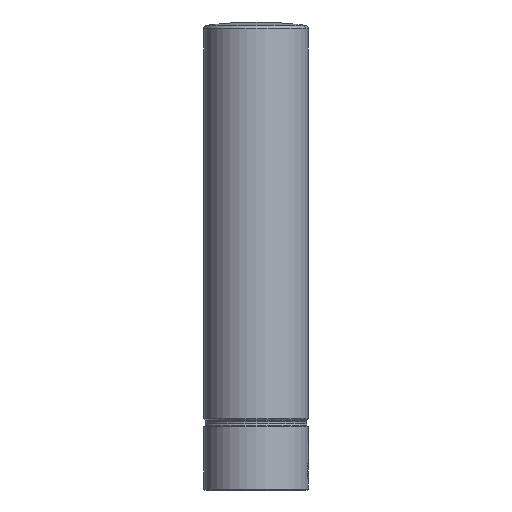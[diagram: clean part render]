
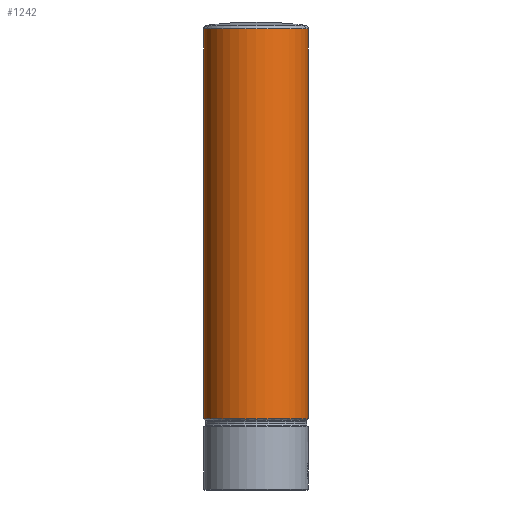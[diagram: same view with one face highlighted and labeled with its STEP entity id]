
A CAD part, left-side view. The second image highlights one B-rep face of the part: STEP entity #1242.
In plain terms, the highlighted cylindrical face has radius 14 mm (diameter 28 mm), a partial arc.
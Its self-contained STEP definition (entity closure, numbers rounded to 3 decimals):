
#403=DIRECTION('',(-1.,0.,0.));
#404=VECTOR('',#403,104.143);
#405=CARTESIAN_POINT('',(123.143,3.5,13.555));
#406=LINE('',#405,#404);
#407=DIRECTION('',(-1.,0.,0.));
#408=VECTOR('',#407,104.143);
#409=CARTESIAN_POINT('',(123.143,-3.5,13.555));
#410=LINE('',#409,#408);
#443=CARTESIAN_POINT('',(30.,7.211,12.));
#444=CARTESIAN_POINT('',(29.843,7.211,12.));
#445=CARTESIAN_POINT('',(29.535,7.251,11.976));
#446=CARTESIAN_POINT('',(29.082,7.428,11.868));
#447=CARTESIAN_POINT('',(28.679,7.684,11.704));
#448=CARTESIAN_POINT('',(28.317,7.995,11.495));
#449=CARTESIAN_POINT('',(27.994,8.346,11.243));
#450=CARTESIAN_POINT('',(27.721,8.711,10.963));
#451=CARTESIAN_POINT('',(27.494,9.077,10.662));
#452=CARTESIAN_POINT('',(27.308,9.441,10.342));
#453=CARTESIAN_POINT('',(27.158,9.815,9.988));
#454=CARTESIAN_POINT('',(27.046,10.211,9.584));
#455=CARTESIAN_POINT('',(26.987,10.635,9.113));
#456=CARTESIAN_POINT('',(27.013,11.097,8.548));
#457=CARTESIAN_POINT('',(27.175,11.554,7.918));
#458=CARTESIAN_POINT('',(27.494,11.953,7.3));
#459=CARTESIAN_POINT('',(27.968,12.269,6.752));
#460=CARTESIAN_POINT('',(28.59,12.497,6.314));
#461=CARTESIAN_POINT('',(29.319,12.627,6.048));
#462=CARTESIAN_POINT('',(29.772,12.649,6.));
#463=CARTESIAN_POINT('',(30.,12.649,6.));
#465=CARTESIAN_POINT('',(30.,12.649,6.));
#466=CARTESIAN_POINT('',(30.259,12.649,6.));
#467=CARTESIAN_POINT('',(30.753,12.619,6.065));
#468=CARTESIAN_POINT('',(31.443,12.486,6.337));
#469=CARTESIAN_POINT('',(32.026,12.269,6.751));
#470=CARTESIAN_POINT('',(32.501,11.96,7.288));
#471=CARTESIAN_POINT('',(32.856,11.519,7.974));
#472=CARTESIAN_POINT('',(33.025,10.937,8.76));
#473=CARTESIAN_POINT('',(32.985,10.265,9.539));
#474=CARTESIAN_POINT('',(32.754,9.542,10.259));
#475=CARTESIAN_POINT('',(32.406,8.886,10.828));
#476=CARTESIAN_POINT('',(31.996,8.322,11.264));
#477=CARTESIAN_POINT('',(31.54,7.852,11.594));
#478=CARTESIAN_POINT('',(31.045,7.489,11.83));
#479=CARTESIAN_POINT('',(30.506,7.256,11.973));
#480=CARTESIAN_POINT('',(30.168,7.211,12.));
#481=CARTESIAN_POINT('',(30.,7.211,12.));
#483=CARTESIAN_POINT('',(95.,7.211,12.));
#484=CARTESIAN_POINT('',(94.854,7.211,12.));
#485=CARTESIAN_POINT('',(94.572,7.246,11.979));
#486=CARTESIAN_POINT('',(94.169,7.389,11.892));
#487=CARTESIAN_POINT('',(93.812,7.594,11.762));
#488=CARTESIAN_POINT('',(93.502,7.831,11.606));
#489=CARTESIAN_POINT('',(93.227,8.091,11.427));
#490=CARTESIAN_POINT('',(92.97,8.379,11.218));
#491=CARTESIAN_POINT('',(92.729,8.701,10.971));
#492=CARTESIAN_POINT('',(92.509,9.05,10.685));
#493=CARTESIAN_POINT('',(92.321,9.412,10.368));
#494=CARTESIAN_POINT('',(92.165,9.793,10.01));
#495=CARTESIAN_POINT('',(92.048,10.201,9.595));
#496=CARTESIAN_POINT('',(91.987,10.636,9.112));
#497=CARTESIAN_POINT('',(92.014,11.104,8.538));
#498=CARTESIAN_POINT('',(92.179,11.563,7.906));
#499=CARTESIAN_POINT('',(92.502,11.959,7.289));
#500=CARTESIAN_POINT('',(92.976,12.272,6.745));
#501=CARTESIAN_POINT('',(93.595,12.498,6.312));
#502=CARTESIAN_POINT('',(94.319,12.627,6.048));
#503=CARTESIAN_POINT('',(94.773,12.649,6.));
#504=CARTESIAN_POINT('',(95.,12.649,6.));
#506=CARTESIAN_POINT('',(95.,12.649,6.));
#507=CARTESIAN_POINT('',(95.246,12.649,6.));
#508=CARTESIAN_POINT('',(95.729,12.623,6.056));
#509=CARTESIAN_POINT('',(96.488,12.478,6.353));
#510=CARTESIAN_POINT('',(97.115,12.228,6.827));
#511=CARTESIAN_POINT('',(97.58,11.885,7.412));
#512=CARTESIAN_POINT('',(97.879,11.453,8.066));
#513=CARTESIAN_POINT('',(98.007,10.968,8.713));
#514=CARTESIAN_POINT('',(98.002,10.497,9.272));
#515=CARTESIAN_POINT('',(97.918,10.06,9.742));
#516=CARTESIAN_POINT('',(97.782,9.65,10.148));
#517=CARTESIAN_POINT('',(97.606,9.261,10.503));
#518=CARTESIAN_POINT('',(97.389,8.879,10.828));
#519=CARTESIAN_POINT('',(97.14,8.518,11.113));
#520=CARTESIAN_POINT('',(96.873,8.196,11.352));
#521=CARTESIAN_POINT('',(96.585,7.906,11.555));
#522=CARTESIAN_POINT('',(96.259,7.642,11.732));
#523=CARTESIAN_POINT('',(95.886,7.414,11.877));
#524=CARTESIAN_POINT('',(95.456,7.251,11.976));
#525=CARTESIAN_POINT('',(95.156,7.211,12.));
#526=CARTESIAN_POINT('',(95.,7.211,12.));
#578=CARTESIAN_POINT('',(123.143,0.,0.));
#579=DIRECTION('',(-1.,0.,0.));
#580=DIRECTION('',(0.,0.25,0.968));
#581=AXIS2_PLACEMENT_3D('',#578,#579,#580);
#611=CARTESIAN_POINT('',(19.,0.,0.));
#612=DIRECTION('',(1.,0.,0.));
#613=DIRECTION('',(0.,-0.25,0.968));
#614=AXIS2_PLACEMENT_3D('',#611,#612,#613);
#989=CARTESIAN_POINT('',(123.143,3.5,13.555));
#990=CARTESIAN_POINT('',(123.143,-3.5,13.555));
#991=VERTEX_POINT('',#989);
#992=VERTEX_POINT('',#990);
#1013=CARTESIAN_POINT('',(19.,-3.5,13.555));
#1014=CARTESIAN_POINT('',(19.,3.5,13.555));
#1015=VERTEX_POINT('',#1013);
#1016=VERTEX_POINT('',#1014);
#1043=VERTEX_POINT('',#443);
#1044=VERTEX_POINT('',#463);
#1049=VERTEX_POINT('',#483);
#1050=VERTEX_POINT('',#504);
#1216=CARTESIAN_POINT('',(131.25,0.,0.));
#1217=DIRECTION('',(-1.,0.,0.));
#1218=DIRECTION('',(0.,1.,0.));
#1219=AXIS2_PLACEMENT_3D('',#1216,#1217,#1218);
#1220=CYLINDRICAL_SURFACE('',#1219,14.);
#1222=ORIENTED_EDGE('',*,*,#1221,.F.);
#1223=ORIENTED_EDGE('',*,*,#1160,.T.);
#1225=ORIENTED_EDGE('',*,*,#1224,.F.);
#1227=ORIENTED_EDGE('',*,*,#1226,.F.);
#1228=EDGE_LOOP('',(#1222,#1223,#1225,#1227));
#1229=FACE_OUTER_BOUND('',#1228,.F.);
#1231=ORIENTED_EDGE('',*,*,#1230,.F.);
#1233=ORIENTED_EDGE('',*,*,#1232,.F.);
#1234=EDGE_LOOP('',(#1231,#1233));
#1235=FACE_BOUND('',#1234,.F.);
#1237=ORIENTED_EDGE('',*,*,#1236,.F.);
#1239=ORIENTED_EDGE('',*,*,#1238,.F.);
#1240=EDGE_LOOP('',(#1237,#1239));
#1241=FACE_BOUND('',#1240,.F.);
#1242=ADVANCED_FACE('',(#1229,#1235,#1241),#1220,.T.);
#464=B_SPLINE_CURVE_WITH_KNOTS('',3,(#443,#444,#445,#446,#447,#448,#449,#450,
#451,#452,#453,#454,#455,#456,#457,#458,#459,#460,#461,#462,#463),.UNSPECIFIED.,
.F.,.F.,(4,1,1,1,1,1,1,1,1,1,1,1,1,1,1,1,1,1,4),(0.,0.056,
0.111,0.167,0.222,0.278,
0.333,0.389,0.444,0.5,0.556,
0.611,0.667,0.722,0.778,
0.833,0.889,0.944,1.),.UNSPECIFIED.);
#482=B_SPLINE_CURVE_WITH_KNOTS('',3,(#465,#466,#467,#468,#469,#470,#471,#472,
#473,#474,#475,#476,#477,#478,#479,#480,#481),.UNSPECIFIED.,.F.,.F.,(4,1,1,1,1,
1,1,1,1,1,1,1,1,1,4),(0.,0.071,0.143,
0.214,0.286,0.357,0.429,0.5,
0.571,0.643,0.714,0.786,
0.857,0.929,1.),.UNSPECIFIED.);
#505=B_SPLINE_CURVE_WITH_KNOTS('',3,(#483,#484,#485,#486,#487,#488,#489,#490,
#491,#492,#493,#494,#495,#496,#497,#498,#499,#500,#501,#502,#503,#504),
.UNSPECIFIED.,.F.,.F.,(4,1,1,1,1,1,1,1,1,1,1,1,1,1,1,1,1,1,1,4),(0.,
0.053,0.105,0.158,0.211,
0.263,0.316,0.368,0.421,
0.474,0.526,0.579,0.632,
0.684,0.737,0.789,0.842,
0.895,0.947,1.),.UNSPECIFIED.);
#527=B_SPLINE_CURVE_WITH_KNOTS('',3,(#506,#507,#508,#509,#510,#511,#512,#513,
#514,#515,#516,#517,#518,#519,#520,#521,#522,#523,#524,#525,#526),.UNSPECIFIED.,
.F.,.F.,(4,1,1,1,1,1,1,1,1,1,1,1,1,1,1,1,1,1,4),(0.,0.056,
0.111,0.167,0.222,0.278,
0.333,0.389,0.444,0.5,0.556,
0.611,0.667,0.722,0.778,
0.833,0.889,0.944,1.),.UNSPECIFIED.);
#582=CIRCLE('',#581,14.);
#615=CIRCLE('',#614,14.);
#1160=EDGE_CURVE('',#991,#1016,#406,.T.);
#1221=EDGE_CURVE('',#991,#992,#582,.T.);
#1224=EDGE_CURVE('',#1015,#1016,#615,.T.);
#1226=EDGE_CURVE('',#992,#1015,#410,.T.);
#1230=EDGE_CURVE('',#1043,#1044,#464,.T.);
#1232=EDGE_CURVE('',#1044,#1043,#482,.T.);
#1236=EDGE_CURVE('',#1049,#1050,#505,.T.);
#1238=EDGE_CURVE('',#1050,#1049,#527,.T.);
